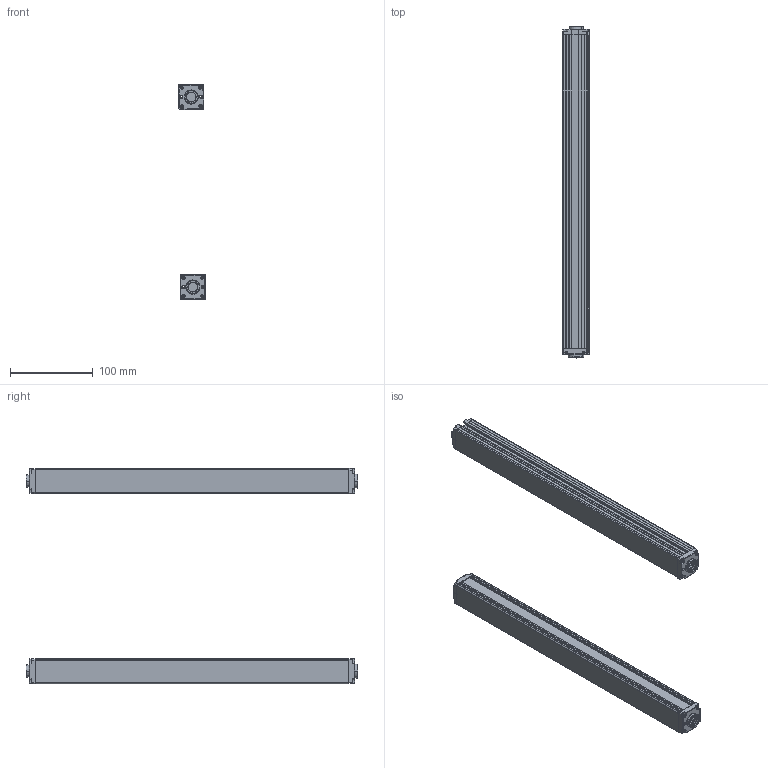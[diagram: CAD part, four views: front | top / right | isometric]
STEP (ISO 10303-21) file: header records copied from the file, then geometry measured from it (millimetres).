
FILE_DESCRIPTION (( 'STEP AP203' ), '1' );
FILE_NAME ('ZDA3610-380.STEP', '2022-08-30T03:44:37', ( 'Windows 蚚誧' ), ( 'Organization' ), 'SwSTEP 2.0', 'SolidWorks 2020', '' );
FILE_SCHEMA (( 'CONFIG_CONTROL_DESIGN' ));
Length unit declared in the file: millimetre
Products named in the file (5): 錨璃8; 錨璃8 - 萵掛 (2); 錨璃10; ZDA3610-380; 錨璃1
Assembly tree (8 placements, depth 2):
  ZDA3610-380
    錨璃1  x2
    錨璃8  x2
    錨璃8 - 萵掛 (2)  x2
    錨璃10  x2
Bounding box: 32.36 x 401.4 x 260.35 mm (x, y, z)
Volume: 248462.9 mm3; surface area: 264911.1 mm2
Topology: 8 solids, 8 shells, 1032 faces, 2690 edges, 1668 vertices
Faces by surface type: plane 464, cylinder 310, cone 120, bspline 58, torus 48, sphere 32
Entity records: 17901 total; most frequent: CARTESIAN_POINT 4731, ORIENTED_EDGE 2666, DIRECTION 2616, EDGE_CURVE 1333, AXIS2_PLACEMENT_3D 894, VERTEX_POINT 834, LINE 828, VECTOR 828
